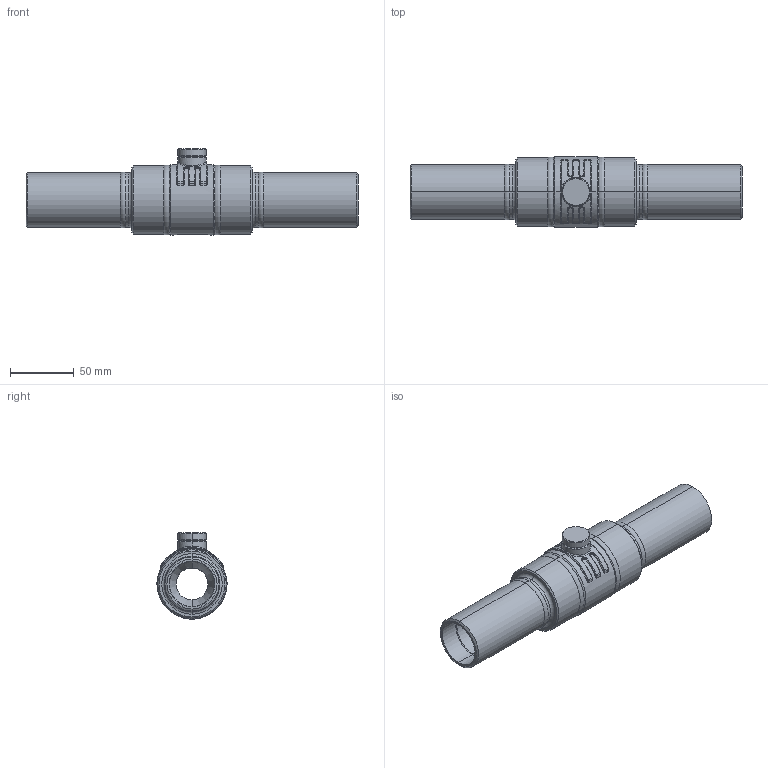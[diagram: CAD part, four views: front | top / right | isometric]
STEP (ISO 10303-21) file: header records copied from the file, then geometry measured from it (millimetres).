
FILE_DESCRIPTION((''),'2;1');
FILE_NAME('KHMO-BH-R-ISKT-032R025P040','2025-02-11T17:01:40',('jeitlers'),('KLINGER'),'CREO PARAMETRIC BY PTC INC, 2023014','CREO PARAMETRIC BY PTC INC, 2023014','');
FILE_SCHEMA(('CONFIG_CONTROL_DESIGN'));
Length unit declared in the file: millimetre
Products named in the file (1): KHMO-BH-R-ISKT-032R025P040
Bounding box: 260 x 55 x 67.5 mm (x, y, z)
Volume: 222059.9 mm3; surface area: 88724 mm2
Topology: 2 solids, 2 shells, 414 faces, 885 edges, 495 vertices
Faces by surface type: cylinder 127, torus 92, cone 74, plane 71, bspline 48, sphere 2
Entity records: 18986 total; most frequent: CARTESIAN_POINT 10112, DIRECTION 1998, ORIENTED_EDGE 1766, EDGE_CURVE 883, AXIS2_PLACEMENT_3D 867, CIRCLE 501, VERTEX_POINT 495, EDGE_LOOP 444
